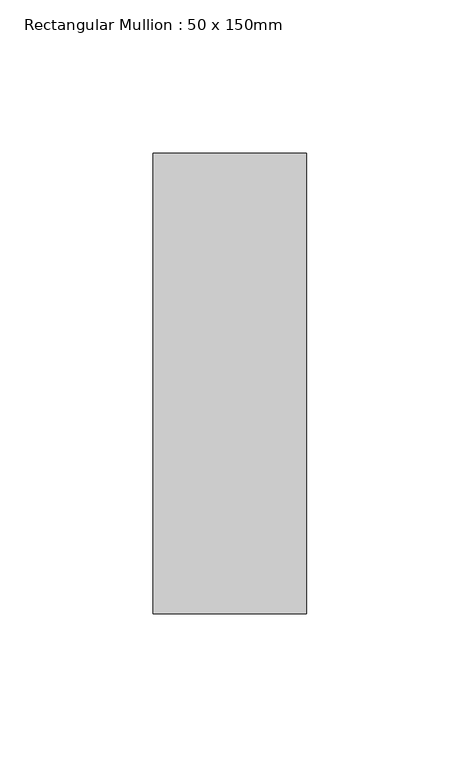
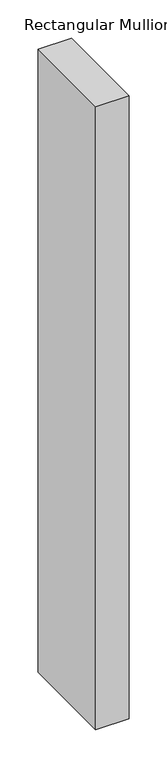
"""IFC4 building model written with IfcOpenShell, lengths in millimetres: member geometry, Rectangular Mullion : 50 x 150mm."""

from ifc_helpers import new_model, si_unit, frame, origin, place, context, project, spatial, polyline, outline, extrude, source, transform, mapped, element, save


def rectangular_mullion_50_x_150mm_ae8d583d(model_context):
    return source(origin(), model_context, "Body", "SweptSolid", [
        extrude(outline(polyline([(25.0, 75.0), (25.0, -75.0), (-25.0, -75.0), (-25.0, 75.0), (25.0, 75.0)])), frame((0.0, 0.0, -991.6666667), z_axis=(0.0, 0.0, 1.0), x_axis=(1.0, 0.0, 0.0)), (0.0, 0.0, 1.0), 991.6666667),
    ])


if __name__ == "__main__":
    model = new_model("IFC4")
    model_context = context("Model", 3, world=origin())
    ifc_project = project(units=[si_unit("LENGTHUNIT", "METRE", prefix="MILLI")], contexts=[model_context])
    site = spatial("IfcSite", under=ifc_project)
    building = spatial("IfcBuilding", under=site)
    placement = place(None, origin())
    rectangular_mullion_50_x_150mm_shape = rectangular_mullion_50_x_150mm_ae8d583d(model_context)
    element("IfcMember", 1, ObjectType="Rectangular Mullion : 50 x 150mm", at=placement, inside=building, context=model_context, shape_type="MappedRepresentation", body=[
        mapped(rectangular_mullion_50_x_150mm_shape, transform((0.0, 0.0, 0.0), x_axis=(1.0, 0.0, 0.0), y_axis=(0.0, 1.0, 0.0), z_axis=(0.0, 0.0, 1.0))),
    ])
    save(model, "model.ifc")
